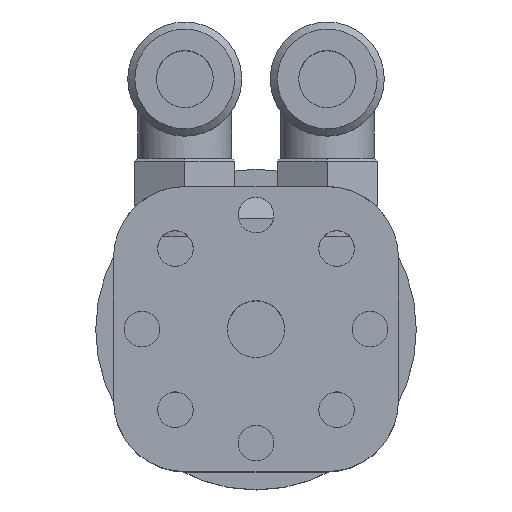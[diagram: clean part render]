
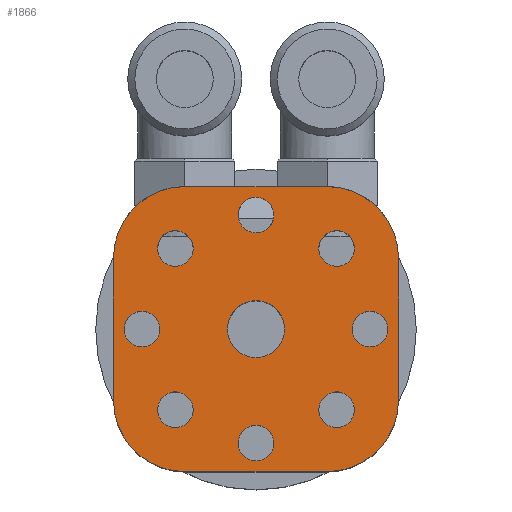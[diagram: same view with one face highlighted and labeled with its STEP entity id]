
A CAD part, top view. The second image highlights one B-rep face of the part: STEP entity #1866.
In plain terms, the highlighted planar face has unit normal (0, 0, 1).
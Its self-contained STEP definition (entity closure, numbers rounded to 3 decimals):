
#139=ORIENTED_EDGE('',*,*,#765,.F.);
#140=ORIENTED_EDGE('',*,*,#766,.F.);
#141=ORIENTED_EDGE('',*,*,#767,.F.);
#142=ORIENTED_EDGE('',*,*,#768,.F.);
#143=ORIENTED_EDGE('',*,*,#769,.F.);
#144=ORIENTED_EDGE('',*,*,#770,.F.);
#145=ORIENTED_EDGE('',*,*,#771,.F.);
#146=ORIENTED_EDGE('',*,*,#772,.F.);
#147=ORIENTED_EDGE('',*,*,#773,.F.);
#148=ORIENTED_EDGE('',*,*,#774,.F.);
#149=ORIENTED_EDGE('',*,*,#775,.T.);
#150=ORIENTED_EDGE('',*,*,#750,.T.);
#151=ORIENTED_EDGE('',*,*,#776,.T.);
#152=ORIENTED_EDGE('',*,*,#777,.T.);
#153=ORIENTED_EDGE('',*,*,#778,.T.);
#154=ORIENTED_EDGE('',*,*,#751,.F.);
#155=ORIENTED_EDGE('',*,*,#779,.T.);
#750=EDGE_CURVE('',#1061,#1064,#2140,.T.);
#751=EDGE_CURVE('',#1065,#1066,#2141,.T.);
#765=EDGE_CURVE('',#1077,#1077,#2831,.T.);
#766=EDGE_CURVE('',#1078,#1078,#2832,.T.);
#767=EDGE_CURVE('',#1079,#1079,#2833,.T.);
#768=EDGE_CURVE('',#1080,#1080,#2834,.T.);
#769=EDGE_CURVE('',#1081,#1081,#2835,.T.);
#770=EDGE_CURVE('',#1082,#1082,#2836,.T.);
#771=EDGE_CURVE('',#1083,#1083,#2837,.T.);
#772=EDGE_CURVE('',#1084,#1084,#2838,.T.);
#773=EDGE_CURVE('',#1085,#1085,#2839,.T.);
#774=EDGE_CURVE('',#1086,#1087,#2151,.T.);
#775=EDGE_CURVE('',#1086,#1061,#2840,.F.);
#776=EDGE_CURVE('',#1064,#1088,#2841,.F.);
#777=EDGE_CURVE('',#1088,#1089,#2152,.T.);
#778=EDGE_CURVE('',#1089,#1066,#2842,.F.);
#779=EDGE_CURVE('',#1065,#1087,#2843,.F.);
#1061=VERTEX_POINT('',#4216);
#1064=VERTEX_POINT('',#4221);
#1065=VERTEX_POINT('',#4225);
#1066=VERTEX_POINT('',#4226);
#1077=VERTEX_POINT('',#4254);
#1078=VERTEX_POINT('',#4256);
#1079=VERTEX_POINT('',#4258);
#1080=VERTEX_POINT('',#4260);
#1081=VERTEX_POINT('',#4262);
#1082=VERTEX_POINT('',#4264);
#1083=VERTEX_POINT('',#4266);
#1084=VERTEX_POINT('',#4268);
#1085=VERTEX_POINT('',#4270);
#1086=VERTEX_POINT('',#4272);
#1087=VERTEX_POINT('',#4273);
#1088=VERTEX_POINT('',#4276);
#1089=VERTEX_POINT('',#4278);
#1278=EDGE_LOOP('',(#139));
#1279=EDGE_LOOP('',(#140));
#1280=EDGE_LOOP('',(#141));
#1281=EDGE_LOOP('',(#142));
#1282=EDGE_LOOP('',(#143));
#1283=EDGE_LOOP('',(#144));
#1284=EDGE_LOOP('',(#145));
#1285=EDGE_LOOP('',(#146));
#1286=EDGE_LOOP('',(#147));
#1287=EDGE_LOOP('',(#148,#149,#150,#151,#152,#153,#154,#155));
#1515=FACE_BOUND('',#1278,.T.);
#1516=FACE_BOUND('',#1279,.T.);
#1517=FACE_BOUND('',#1280,.T.);
#1518=FACE_BOUND('',#1281,.T.);
#1519=FACE_BOUND('',#1282,.T.);
#1520=FACE_BOUND('',#1283,.T.);
#1521=FACE_BOUND('',#1284,.T.);
#1522=FACE_BOUND('',#1285,.T.);
#1523=FACE_BOUND('',#1286,.T.);
#1524=FACE_BOUND('',#1287,.T.);
#1752=PLANE('',#3003);
#1866=ADVANCED_FACE('',(#1515,#1516,#1517,#1518,#1519,#1520,#1521,#1522,
#1523,#1524),#1752,.F.);
#2140=LINE('',#4222,#2340);
#2141=LINE('',#4224,#2341);
#2151=LINE('',#4271,#2351);
#2152=LINE('',#4277,#2352);
#2340=VECTOR('',#3382,1000.);
#2341=VECTOR('',#3385,1000.);
#2351=VECTOR('',#3427,1000.);
#2352=VECTOR('',#3432,1000.);
#2831=CIRCLE('',#3004,2.);
#2832=CIRCLE('',#3005,1.25);
#2833=CIRCLE('',#3006,1.25);
#2834=CIRCLE('',#3007,1.25);
#2835=CIRCLE('',#3008,1.25);
#2836=CIRCLE('',#3009,1.25);
#2837=CIRCLE('',#3010,1.25);
#2838=CIRCLE('',#3011,1.25);
#2839=CIRCLE('',#3012,1.25);
#2840=CIRCLE('',#3013,5.);
#2841=CIRCLE('',#3014,5.);
#2842=CIRCLE('',#3015,5.);
#2843=CIRCLE('',#3016,5.);
#3003=AXIS2_PLACEMENT_3D('',#4252,#3407,#3408);
#3004=AXIS2_PLACEMENT_3D('',#4253,#3409,#3410);
#3005=AXIS2_PLACEMENT_3D('',#4255,#3411,#3412);
#3006=AXIS2_PLACEMENT_3D('',#4257,#3413,#3414);
#3007=AXIS2_PLACEMENT_3D('',#4259,#3415,#3416);
#3008=AXIS2_PLACEMENT_3D('',#4261,#3417,#3418);
#3009=AXIS2_PLACEMENT_3D('',#4263,#3419,#3420);
#3010=AXIS2_PLACEMENT_3D('',#4265,#3421,#3422);
#3011=AXIS2_PLACEMENT_3D('',#4267,#3423,#3424);
#3012=AXIS2_PLACEMENT_3D('',#4269,#3425,#3426);
#3013=AXIS2_PLACEMENT_3D('',#4274,#3428,#3429);
#3014=AXIS2_PLACEMENT_3D('',#4275,#3430,#3431);
#3015=AXIS2_PLACEMENT_3D('',#4279,#3433,#3434);
#3016=AXIS2_PLACEMENT_3D('',#4280,#3435,#3436);
#3382=DIRECTION('',(-1.,0.,0.));
#3385=DIRECTION('',(-1.,0.,0.));
#3407=DIRECTION('',(0.,0.,-1.));
#3408=DIRECTION('',(0.,1.,0.));
#3409=DIRECTION('',(0.,0.,1.));
#3410=DIRECTION('',(-1.,0.,0.));
#3411=DIRECTION('',(0.,0.,1.));
#3412=DIRECTION('',(-0.707,0.707,0.));
#3413=DIRECTION('',(0.,0.,1.));
#3414=DIRECTION('',(-0.707,-0.707,0.));
#3415=DIRECTION('',(0.,0.,1.));
#3416=DIRECTION('',(-1.,0.,0.));
#3417=DIRECTION('',(0.,0.,1.));
#3418=DIRECTION('',(0.,-1.,0.));
#3419=DIRECTION('',(0.,0.,1.));
#3420=DIRECTION('',(0.,1.,0.));
#3421=DIRECTION('',(0.,0.,1.));
#3422=DIRECTION('',(0.707,-0.707,0.));
#3423=DIRECTION('',(0.,0.,1.));
#3424=DIRECTION('',(0.707,0.707,0.));
#3425=DIRECTION('',(0.,0.,1.));
#3426=DIRECTION('',(1.,0.,0.));
#3427=DIRECTION('',(0.,-1.,0.));
#3428=DIRECTION('',(0.,0.,-1.));
#3429=DIRECTION('',(0.,1.,0.));
#3430=DIRECTION('',(0.,0.,-1.));
#3431=DIRECTION('',(0.,1.,0.));
#3432=DIRECTION('',(0.,-1.,0.));
#3433=DIRECTION('',(0.,0.,-1.));
#3434=DIRECTION('',(0.,1.,0.));
#3435=DIRECTION('',(0.,0.,-1.));
#3436=DIRECTION('',(0.,1.,0.));
#4216=CARTESIAN_POINT('',(5.,10.,34.654));
#4221=CARTESIAN_POINT('',(-5.,10.,34.654));
#4222=CARTESIAN_POINT('',(10.,10.,34.654));
#4224=CARTESIAN_POINT('',(10.,-10.,34.654));
#4225=CARTESIAN_POINT('',(5.,-10.,34.654));
#4226=CARTESIAN_POINT('',(-5.,-10.,34.654));
#4252=CARTESIAN_POINT('',(10.,10.,34.654));
#4253=CARTESIAN_POINT('',(0.,0.,34.654));
#4254=CARTESIAN_POINT('',(-2.,0.,34.654));
#4255=CARTESIAN_POINT('',(-5.657,5.657,34.654));
#4256=CARTESIAN_POINT('',(-6.541,6.541,34.654));
#4257=CARTESIAN_POINT('',(-5.657,-5.657,34.654));
#4258=CARTESIAN_POINT('',(-6.541,-6.541,34.654));
#4259=CARTESIAN_POINT('',(-8.,0.,34.654));
#4260=CARTESIAN_POINT('',(-9.25,0.,34.654));
#4261=CARTESIAN_POINT('',(0.,-8.,34.654));
#4262=CARTESIAN_POINT('',(0.,-9.25,34.654));
#4263=CARTESIAN_POINT('',(0.,8.,34.654));
#4264=CARTESIAN_POINT('',(0.,9.25,34.654));
#4265=CARTESIAN_POINT('',(5.657,-5.657,34.654));
#4266=CARTESIAN_POINT('',(6.541,-6.541,34.654));
#4267=CARTESIAN_POINT('',(5.657,5.657,34.654));
#4268=CARTESIAN_POINT('',(6.541,6.541,34.654));
#4269=CARTESIAN_POINT('',(8.,0.,34.654));
#4270=CARTESIAN_POINT('',(9.25,0.,34.654));
#4271=CARTESIAN_POINT('',(10.,10.,34.654));
#4272=CARTESIAN_POINT('',(10.,5.,34.654));
#4273=CARTESIAN_POINT('',(10.,-5.,34.654));
#4274=CARTESIAN_POINT('',(5.,5.,34.654));
#4275=CARTESIAN_POINT('',(-5.,5.,34.654));
#4276=CARTESIAN_POINT('',(-10.,5.,34.654));
#4277=CARTESIAN_POINT('',(-10.,10.,34.654));
#4278=CARTESIAN_POINT('',(-10.,-5.,34.654));
#4279=CARTESIAN_POINT('',(-5.,-5.,34.654));
#4280=CARTESIAN_POINT('',(5.,-5.,34.654));
